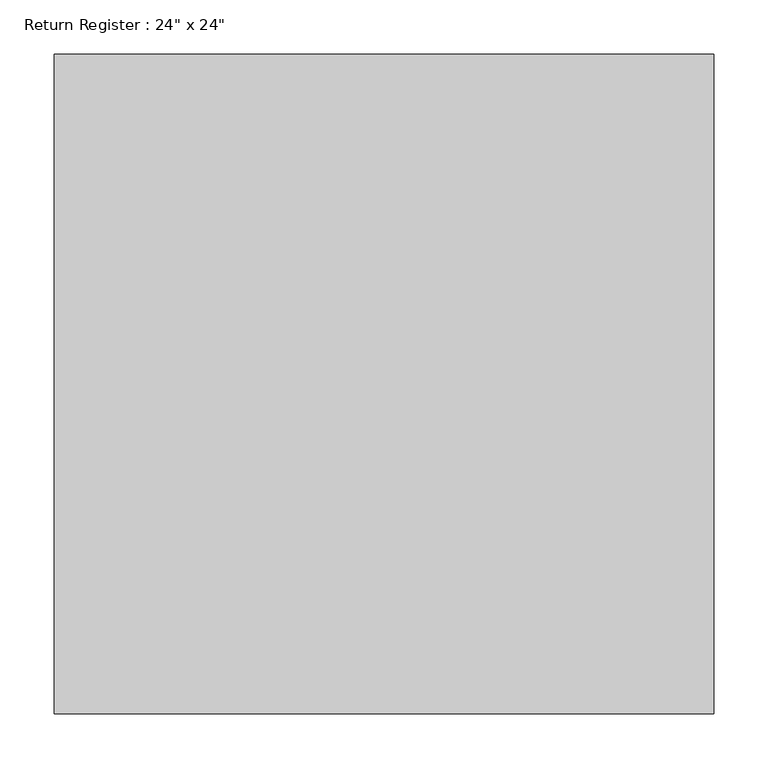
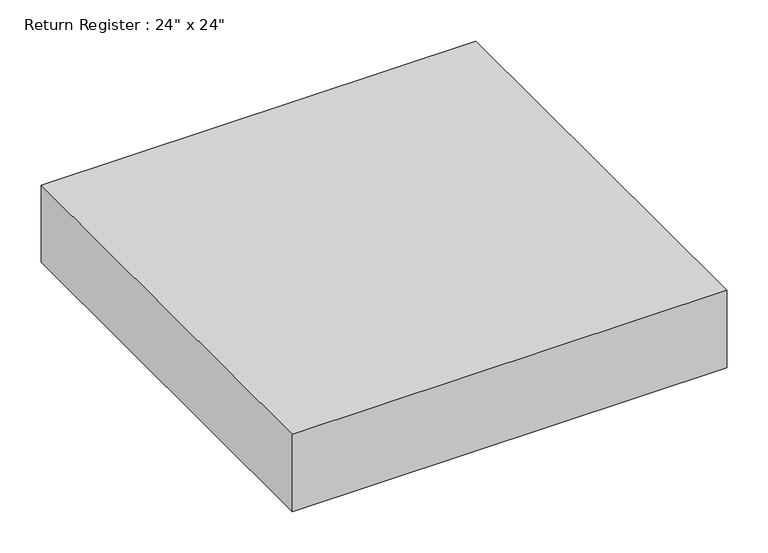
"""IFC4 building model written with IfcOpenShell, lengths in millimetres: proxy geometry."""

from ifc_helpers import new_model, si_unit, frame, origin, place, context, project, spatial, polyline, outline, extrude, source, transform, mapped, element, save


def proxy_9d74ca78(model_context):
    return source(origin(), model_context, "Body", "SweptSolid", [
        extrude(outline(polyline([(-304.8, -304.8), (-304.8, 304.8), (304.8, 304.8), (304.8, -304.8), (-304.8, -304.8)])), frame((0.0, 0.0, 2438.4), z_axis=(0.0, 0.0, 1.0), x_axis=(1.0, 0.0, 0.0)), (0.0, 0.0, 1.0), 114.3),
    ])


if __name__ == "__main__":
    model = new_model("IFC4")
    model_context = context("Model", 3, world=origin())
    ifc_project = project(units=[si_unit("LENGTHUNIT", "METRE", prefix="MILLI")], contexts=[model_context])
    site = spatial("IfcSite", under=ifc_project)
    building = spatial("IfcBuilding", under=site)
    placement = place(None, origin())
    proxy_shape = proxy_9d74ca78(model_context)
    element("IfcBuildingElementProxy", 1, Name="Return Register : 24\" x 24\"", ObjectType="Return Register : 24\" x 24\"", at=placement, inside=building, context=model_context, shape_type="MappedRepresentation", body=[
        mapped(proxy_shape, transform((0.0, 0.0, 0.0), x_axis=(1.0, 0.0, 0.0), y_axis=(0.0, 1.0, 0.0), z_axis=(0.0, 0.0, 1.0))),
    ])
    save(model, "model.ifc")
